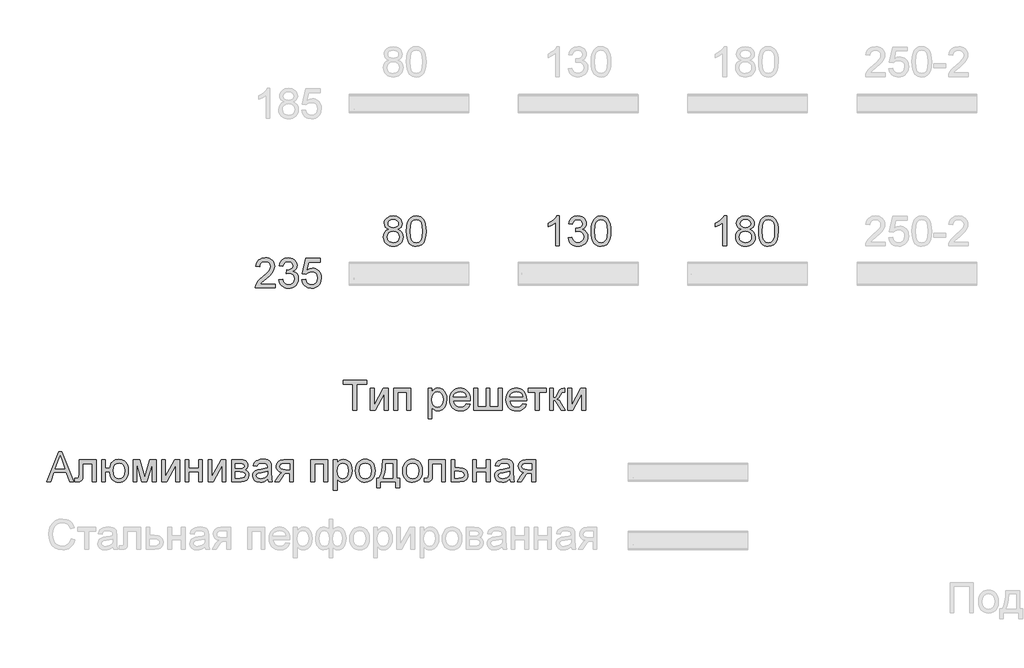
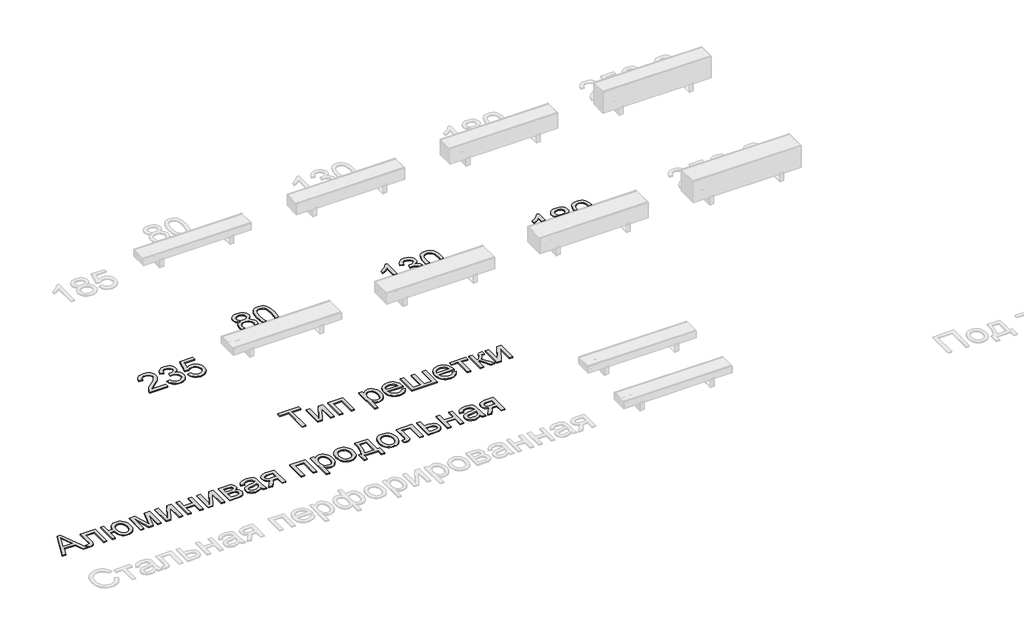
# One storey, part 3 of 7: 6 proxies.
"""IFC4 building model written with IfcOpenShell, lengths in millimetres."""

from ifc_helpers import new_model, si_unit, origin, origin_with_axes, place, context, project, spatial, polyline, outline, extrude, element, save

model = new_model("IFC4")

# Units and contexts
model_context = context("Model", 3, world=origin())
ifc_project = project(units=[si_unit("LENGTHUNIT", "METRE", prefix="MILLI")], contexts=[model_context])

# Site, building, storey
site = spatial("IfcSite", under=ifc_project)
building = spatial("IfcBuilding", under=site)
storey = spatial("IfcBuildingStorey", under=building, Name="Уровень 1", Elevation=0.0)

# Proxies
placement = place(None, origin())
element("IfcBuildingElementProxy", 1, Name="Текст модели 1", ObjectType="Текст модели 1", at=placement, inside=storey, context=model_context, shape_type="SweptSolid", body=[
    extrude(outline(polyline([(1521.1954966, -4334.7822779), (1501.0263662, -4324.849464), (1486.8721064, -4311.384983), (1478.5119881, -4294.6647463), (1475.725282, -4274.9646655), (1477.2427952, -4259.6009936), (1481.7953349, -4245.5157117), (1489.382901, -4232.7088198), (1500.0054937, -4221.1803178), (1513.1526765, -4211.6521741), (1528.3140132, -4204.8463572), (1564.6791484, -4199.4017036), (1601.2650128, -4204.9751159), (1616.5918964, -4211.9418812), (1629.9414143, -4221.6953525), (1640.757145, -4233.4491823), (1648.4826669, -4246.4170226), (1653.11798, -4260.5988735), (1654.6630844, -4275.994735), (1651.9131665, -4295.0602194), (1643.6634128, -4311.4953476), (1629.8218527, -4324.8770551), (1610.2965158, -4334.7822779), (1633.4822786, -4346.7292457), (1650.3588651, -4364.3232021), (1660.6503639, -4386.7180185), (1664.0808635, -4413.0675664), (1662.3794093, -4431.8571393), (1657.2750466, -4449.0832138), (1648.7677755, -4464.7457897), (1636.8575959, -4478.8448672), (1622.1699072, -4490.4975294), (1605.3301089, -4498.8208595), (1586.3382009, -4503.8148576), (1565.1941832, -4505.4795236), (1544.0501655, -4503.8079598), (1525.0582575, -4498.7932684), (1508.2184592, -4490.4354493), (1493.5307705, -4478.7345026), (1481.6205909, -4464.5365568), (1473.1133198, -4448.6877406), (1468.0089571, -4431.188054), (1466.3075029, -4412.0374969), (1469.8759582, -4384.6670764), (1480.5813243, -4362.1526983), (1497.8717781, -4345.2669147), (1521.1954966, -4334.7822779)]), holes=[polyline([(1503.9786192, -4410.7131217), (1510.2694013, -4439.0768235), (1518.9790076, -4451.2445205), (1532.526262, -4460.3036146), (1548.749858, -4465.9322091), (1565.4884888, -4467.8084073), (1591.1298639, -4463.8628729), (1610.3700922, -4452.0262697), (1622.3998334, -4434.1012195), (1626.4097472, -4411.8903441), (1622.2710747, -4389.3023896), (1609.8550574, -4370.9818662), (1590.1733707, -4358.8417604), (1564.23769, -4354.7950584), (1538.9549999, -4358.7865781), (1519.9079096, -4370.761137), (1507.9609418, -4388.7321725), (1503.9786192, -4410.7131217)]), polyline([(1513.3963983, -4276.0683114), (1516.7349274, -4292.5126366), (1526.7505147, -4305.6460238), (1543.1488546, -4314.2544625), (1565.6356416, -4317.1239421), (1587.5981967, -4314.2728566), (1603.7482163, -4305.7196002), (1613.6810302, -4293.0276714), (1616.9919681, -4277.7605686), (1613.5706656, -4261.9140517), (1603.3067579, -4248.8082556), (1586.9360091, -4240.0066789), (1565.1941832, -4237.0728199), (1543.3144015, -4239.9422995), (1526.9712439, -4248.5507382), (1516.7901097, -4261.1690906), (1513.3963983, -4276.0683114)])]), origin_with_axes(), (0.0, 0.0, 1.0), 10.0),
    extrude(outline(polyline([(1697.0430903, -4352.51419), (1699.8114023, -4304.2756634), (1708.1163383, -4265.8044038), (1721.8751249, -4236.5117999), (1741.0049887, -4215.8092406), (1765.6438853, -4203.5035879), (1795.9297706, -4199.4017036), (1819.1431245, -4201.8297248), (1839.9284572, -4209.1137883), (1857.3108815, -4220.9687856), (1870.31551, -4237.1096081), (1880.1379593, -4257.3983002), (1887.9738458, -4281.696906), (1893.1057996, -4312.5530083), (1894.8164509, -4352.51419), (1892.07573, -4400.4768052), (1883.8535674, -4438.8560943), (1870.1775542, -4468.1762893), (1851.0752817, -4488.961622), (1826.3812027, -4501.3500482), (1795.9297706, -4505.4795236), (1775.181226, -4503.6860989), (1756.7871263, -4498.3058247), (1740.7474713, -4489.3387011), (1727.0622611, -4476.784728), (1713.9288738, -4454.0910074), (1704.547883, -4425.8146776), (1698.9192884, -4391.9557384), (1697.0430903, -4352.51419)]), holes=[polyline([(1734.7142066, -4352.4406136), (1739.1287905, -4411.697206), (1744.6470204, -4431.9652047), (1752.3725423, -4445.993005), (1772.0910173, -4462.3545567), (1795.9297706, -4467.8084073), (1819.7685239, -4462.3361626), (1839.4869988, -4445.9194286), (1847.2125207, -4431.8686357), (1852.7307506, -4411.6052355), (1857.1453346, -4352.4406136), (1852.8779034, -4294.5175935), (1847.5436145, -4274.3162734), (1840.07561, -4259.95508), (1820.3939233, -4242.793385), (1795.4883122, -4237.0728199), (1771.9070763, -4242.1128033), (1752.9611535, -4257.2327533), (1744.9781142, -4272.8677381), (1739.2759433, -4293.9473764), (1734.7142066, -4352.4406136)])]), origin_with_axes(), (0.0, 0.0, 1.0), 10.0),
])
element("IfcBuildingElementProxy", 2, Name="Текст модели 1", ObjectType="Текст модели 1", at=placement, inside=storey, context=model_context, shape_type="SweptSolid", body=[
    extrude(outline(polyline([(378.7372601, -4883.6692358), (378.7372601, -4921.3403521), (180.9638994, -4921.3403521), (185.0106014, -4895.3678832), (194.2996218, -4875.0699942), (207.8928615, -4855.3791104), (227.5561541, -4834.7685216), (255.0553333, -4811.7115175), (295.7062937, -4775.6038997), (320.09687, -4748.9508492), (332.2921582, -4727.3193878), (336.3572542, -4706.2765377), (332.5220844, -4687.4133884), (321.016575, -4671.7324184), (303.3306481, -4661.1650081), (280.9542257, -4657.642538), (257.4557633, -4661.0822346), (239.1996193, -4671.4013246), (227.4181984, -4687.7904675), (223.3439053, -4709.4403229), (185.672789, -4704.7314333), (194.8054595, -4668.2927217), (203.3518181, -4653.7567844), (214.5515256, -4641.6764594), (228.1470646, -4632.1805054), (243.8809177, -4625.3976811), (281.7635661, -4619.9714217), (301.9533899, -4621.4797378), (319.9221261, -4626.0046864), (335.6697747, -4633.5462673), (349.1963358, -4644.1044805), (360.060351, -4656.8975769), (367.8203618, -4671.1438072), (372.4763683, -4686.8431713), (374.0283705, -4703.9956694), (372.3545074, -4722.0126901), (367.3329182, -4739.7170111), (358.4209769, -4757.7248348), (345.0760575, -4776.6523634), (323.8032811, -4799.249515), (291.1077688, -4828.2662073), (247.7712698, -4864.5025839), (230.7751216, -4883.6692358), (378.7372601, -4883.6692358)])), origin_with_axes(), (0.0, 0.0, 1.0), 10.0),
    extrude(outline(polyline([(416.4083764, -4841.28923), (454.0794927, -4836.5803404), (462.5131874, -4860.2535468), (474.8648254, -4876.2380195), (491.7414119, -4885.3430989), (513.7499523, -4888.3781253), (539.5752683, -4884.2026647), (559.5144725, -4871.6762828), (572.2615836, -4852.9878774), (576.5106207, -4830.3263465), (572.2983718, -4808.8144468), (559.6616253, -4791.3676432), (540.5317615, -4779.8069515), (516.840161, -4775.9533876), (490.4262338, -4780.073666), (494.6200885, -4742.4025497), (500.6533533, -4742.844008), (523.2229137, -4740.1400754), (543.4012411, -4732.0282774), (557.6382743, -4718.306279), (562.383952, -4698.771745), (558.9442554, -4682.5021638), (548.6251654, -4669.3043972), (532.879816, -4660.5580028), (513.1613411, -4657.642538), (493.4060779, -4660.5855939), (477.2560584, -4669.4147618), (465.4654404, -4684.1300416), (458.7883822, -4704.7314333), (421.1172659, -4700.0225438), (432.2089081, -4666.1957944), (451.9457771, -4640.9406954), (478.9483155, -4625.2137401), (511.8369659, -4619.9714217), (535.5193693, -4622.5557927), (557.2703923, -4630.3089057), (575.6093098, -4642.5409821), (589.0553967, -4658.562243), (597.3051504, -4677.0207221), (600.0550684, -4696.5644531), (597.4431062, -4714.7746118), (589.6072197, -4731.2925134), (576.6577735, -4745.3639997), (558.7051321, -4756.2349127), (582.286368, -4765.7630563), (599.7607628, -4781.9866523), (610.5764934, -4804.0227838), (614.181737, -4830.9885341), (612.3791152, -4850.1000037), (606.9712499, -4867.7031572), (597.958141, -4883.7979945), (585.3397885, -4898.3845156), (569.9669197, -4910.4878332), (552.6902615, -4919.1330601), (533.5098139, -4924.3201963), (512.4255771, -4926.0492416), (493.3692897, -4924.5731151), (476.0052596, -4920.1447356), (460.3334866, -4912.7641031), (446.3539708, -4902.4312176), (434.6323307, -4889.7530843), (425.7341849, -4875.3367086), (419.6595335, -4859.1820905), (416.4083764, -4841.28923)])), origin_with_axes(), (0.0, 0.0, 1.0), 10.0),
    extrude(outline(polyline([(647.1439637, -4841.28923), (684.81508, -4836.5803404), (691.7312615, -4859.1958861), (703.797791, -4875.3918909), (720.9594861, -4885.1315667), (743.1611645, -4888.3781253), (770.1637029, -4883.8623738), (790.3972127, -4870.3151194), (803.0339592, -4849.2998604), (807.246208, -4822.3800954), (803.3006736, -4797.0330259), (791.4640704, -4777.6456448), (771.644428, -4765.3399921), (743.7497757, -4761.2381078), (725.4752376, -4762.8751827), (710.6771843, -4767.7864073), (689.5239696, -4784.7825555), (651.8528533, -4780.073666), (684.81508, -4624.6803112), (830.7906557, -4624.6803112), (830.7906557, -4662.3514275), (715.2757092, -4662.3514275), (699.1624779, -4745.3456056), (726.0730458, -4729.011645), (754.2712007, -4723.5669915), (772.617016, -4725.2546502), (789.4683106, -4730.3176261), (804.8250847, -4738.7559194), (818.6873381, -4750.5695299), (830.1629571, -4765.0364894), (838.3598278, -4781.4348293), (843.2779502, -4799.7645497), (844.9173243, -4820.0256506), (839.0128183, -4857.6967669), (831.6321858, -4874.49058), (821.2993002, -4889.9232297), (805.6459214, -4905.7283599), (787.3805803, -4917.0177387), (766.5032771, -4923.7913659), (743.0140117, -4926.0492416), (706.01428, -4920.2459032), (690.3356092, -4912.9917301), (676.5377351, -4902.8358877), (665.0575176, -4890.2842139), (656.3318166, -4875.8425464), (647.1439637, -4841.28923)])), origin_with_axes(), (0.0, 0.0, 1.0), 10.0),
])
element("IfcBuildingElementProxy", 3, Name="Текст модели 1", ObjectType="Текст модели 1", at=placement, inside=storey, context=model_context, shape_type="SweptSolid", body=[
    extrude(outline(polyline([(3232.2063954, -4500.7706341), (3194.535279, -4500.7706341), (3194.535279, -4265.9147684), (3158.8507255, -4291.3354142), (3119.1930464, -4310.3549134), (3119.1930464, -4274.7439363), (3148.7799559, -4258.649099), (3174.4121339, -4239.5008411), (3194.6180525, -4219.1385727), (3207.9261837, -4199.4017036), (3232.2063954, -4199.4017036), (3232.2063954, -4500.7706341)])), origin_with_axes(), (0.0, 0.0, 1.0), 10.0),
    extrude(outline(polyline([(3321.6752966, -4420.7195119), (3359.3464129, -4416.0106224), (3367.7801076, -4439.6838288), (3380.1317456, -4455.6683015), (3397.0083321, -4464.7733809), (3419.0168725, -4467.8084073), (3444.8421886, -4463.6329467), (3464.7813927, -4451.1065647), (3477.5285038, -4432.4181594), (3481.7775409, -4409.7566285), (3477.565292, -4388.2447288), (3464.9285455, -4370.7979252), (3445.7986818, -4359.2372335), (3422.1070813, -4355.3836696), (3395.693154, -4359.5039479), (3399.8870088, -4321.8328316), (3405.9202735, -4322.27429), (3428.4898339, -4319.5703574), (3448.6681613, -4311.4585594), (3462.9051945, -4297.736561), (3467.6508723, -4278.202027), (3464.2111756, -4261.9324458), (3453.8920856, -4248.7346792), (3438.1467363, -4239.9882848), (3418.4282613, -4237.0728199), (3398.6729982, -4240.0158759), (3382.5229786, -4248.8450438), (3370.7323606, -4263.5603236), (3364.0553024, -4284.1617153), (3326.3841861, -4279.4528258), (3337.4758283, -4245.6260763), (3357.2126973, -4220.3709774), (3384.2152358, -4204.6440221), (3417.1038861, -4199.4017036), (3440.7862896, -4201.9860747), (3462.5373125, -4209.7391877), (3480.87623, -4221.971264), (3494.3223169, -4237.9925249), (3502.5720707, -4256.451004), (3505.3219886, -4275.994735), (3502.7100264, -4294.2048938), (3494.8741399, -4310.7227954), (3481.9246937, -4324.7942817), (3463.9720523, -4335.6651947), (3487.5532882, -4345.1933383), (3505.027683, -4361.4169343), (3515.8434136, -4383.4530658), (3519.4486572, -4410.4188161), (3517.6460354, -4429.5302857), (3512.2381701, -4447.1334392), (3503.2250612, -4463.2282765), (3490.6067088, -4477.8147976), (3475.2338399, -4489.9181152), (3457.9571817, -4498.5633421), (3438.7767342, -4503.7504783), (3417.6924973, -4505.4795236), (3398.63621, -4504.0033971), (3381.2721798, -4499.5750176), (3365.6004068, -4492.1943851), (3351.620891, -4481.8614995), (3339.8992509, -4469.1833663), (3331.0011052, -4454.7669906), (3324.9264537, -4438.6123725), (3321.6752966, -4420.7195119)])), origin_with_axes(), (0.0, 0.0, 1.0), 10.0),
    extrude(outline(polyline([(3552.410884, -4352.51419), (3555.179196, -4304.2756634), (3563.484132, -4265.8044038), (3577.2429186, -4236.5117999), (3596.3727824, -4215.8092406), (3621.011679, -4203.5035879), (3651.2975643, -4199.4017036), (3674.5109182, -4201.8297248), (3695.2962509, -4209.1137883), (3712.6786752, -4220.9687856), (3725.6833037, -4237.1096081), (3735.505753, -4257.3983002), (3743.3416395, -4281.696906), (3748.4735933, -4312.5530083), (3750.1842446, -4352.51419), (3747.4435237, -4400.4768052), (3739.2213611, -4438.8560943), (3725.5453479, -4468.1762893), (3706.4430753, -4488.961622), (3681.7489964, -4501.3500482), (3651.2975643, -4505.4795236), (3630.5490197, -4503.6860989), (3612.15492, -4498.3058247), (3596.115265, -4489.3387011), (3582.4300548, -4476.784728), (3569.2966675, -4454.0910074), (3559.9156767, -4425.8146776), (3554.2870821, -4391.9557384), (3552.410884, -4352.51419)]), holes=[polyline([(3590.0820003, -4352.4406136), (3594.4965842, -4411.697206), (3600.0148141, -4431.9652047), (3607.740336, -4445.993005), (3627.458811, -4462.3545567), (3651.2975643, -4467.8084073), (3675.1363175, -4462.3361626), (3694.8547925, -4445.9194286), (3702.5803144, -4431.8686357), (3708.0985443, -4411.6052355), (3712.5131283, -4352.4406136), (3708.2456971, -4294.5175935), (3702.9114082, -4274.3162734), (3695.4434037, -4259.95508), (3675.7617169, -4242.793385), (3650.8561059, -4237.0728199), (3627.27487, -4242.1128033), (3608.3289472, -4257.2327533), (3600.3459079, -4272.8677381), (3594.643737, -4293.9473764), (3590.0820003, -4352.4406136)])]), origin_with_axes(), (0.0, 0.0, 1.0), 10.0),
])
element("IfcBuildingElementProxy", 4, Name="Текст модели 1", ObjectType="Текст модели 1", at=placement, inside=storey, context=model_context, shape_type="SweptSolid", body=[
    extrude(outline(polyline([(4912.2063954, -4500.7706341), (4874.535279, -4500.7706341), (4874.535279, -4265.9147684), (4838.8507255, -4291.3354142), (4799.1930464, -4310.3549134), (4799.1930464, -4274.7439363), (4828.7799559, -4258.649099), (4854.4121339, -4239.5008411), (4874.6180525, -4219.1385727), (4887.9261837, -4199.4017036), (4912.2063954, -4199.4017036), (4912.2063954, -4500.7706341)])), origin_with_axes(), (0.0, 0.0, 1.0), 10.0),
    extrude(outline(polyline([(5056.5632903, -4334.7822779), (5036.3941599, -4324.849464), (5022.2399001, -4311.384983), (5013.8797818, -4294.6647463), (5011.0930757, -4274.9646655), (5012.6105889, -4259.6009936), (5017.1631286, -4245.5157117), (5024.7506947, -4232.7088198), (5035.3732873, -4221.1803178), (5048.5204701, -4211.6521741), (5063.6818069, -4204.8463572), (5100.0469421, -4199.4017036), (5136.6328065, -4204.9751159), (5151.9596901, -4211.9418812), (5165.309208, -4221.6953525), (5176.1249387, -4233.4491823), (5183.8504606, -4246.4170226), (5188.4857737, -4260.5988735), (5190.0308781, -4275.994735), (5187.2809602, -4295.0602194), (5179.0312065, -4311.4953476), (5165.1896464, -4324.8770551), (5145.6643095, -4334.7822779), (5168.8500722, -4346.7292457), (5185.7266588, -4364.3232021), (5196.0181576, -4386.7180185), (5199.4486572, -4413.0675664), (5197.747203, -4431.8571393), (5192.6428403, -4449.0832138), (5184.1355691, -4464.7457897), (5172.2253895, -4478.8448672), (5157.5377009, -4490.4975294), (5140.6979026, -4498.8208595), (5121.7059946, -4503.8148576), (5100.5619769, -4505.4795236), (5079.4179592, -4503.8079598), (5060.4260512, -4498.7932684), (5043.5862529, -4490.4354493), (5028.8985642, -4478.7345026), (5016.9883846, -4464.5365568), (5008.4811135, -4448.6877406), (5003.3767508, -4431.188054), (5001.6752966, -4412.0374969), (5005.2437519, -4384.6670764), (5015.949118, -4362.1526983), (5033.2395718, -4345.2669147), (5056.5632903, -4334.7822779)]), holes=[polyline([(5039.3464129, -4410.7131217), (5045.637195, -4439.0768235), (5054.3468012, -4451.2445205), (5067.8940557, -4460.3036146), (5084.1176517, -4465.9322091), (5100.8562825, -4467.8084073), (5126.4976575, -4463.8628729), (5145.7378859, -4452.0262697), (5157.7676271, -4434.1012195), (5161.7775409, -4411.8903441), (5157.6388684, -4389.3023896), (5145.2228511, -4370.9818662), (5125.5411644, -4358.8417604), (5099.6054837, -4354.7950584), (5074.3227936, -4358.7865781), (5055.2757033, -4370.761137), (5043.3287355, -4388.7321725), (5039.3464129, -4410.7131217)]), polyline([(5048.764192, -4276.0683114), (5052.1027211, -4292.5126366), (5062.1183084, -4305.6460238), (5078.5166483, -4314.2544625), (5101.0034353, -4317.1239421), (5122.9659904, -4314.2728566), (5139.11601, -4305.7196002), (5149.0488238, -4293.0276714), (5152.3597618, -4277.7605686), (5148.9384593, -4261.9140517), (5138.6745516, -4248.8082556), (5122.3038028, -4240.0066789), (5100.5619769, -4237.0728199), (5078.6821952, -4239.9422995), (5062.3390376, -4248.5507382), (5052.1579034, -4261.1690906), (5048.764192, -4276.0683114)])]), origin_with_axes(), (0.0, 0.0, 1.0), 10.0),
    extrude(outline(polyline([(5232.410884, -4352.51419), (5235.179196, -4304.2756634), (5243.484132, -4265.8044038), (5257.2429186, -4236.5117999), (5276.3727824, -4215.8092406), (5301.011679, -4203.5035879), (5331.2975643, -4199.4017036), (5354.5109182, -4201.8297248), (5375.2962509, -4209.1137883), (5392.6786752, -4220.9687856), (5405.6833037, -4237.1096081), (5415.505753, -4257.3983002), (5423.3416395, -4281.696906), (5428.4735933, -4312.5530083), (5430.1842446, -4352.51419), (5427.4435237, -4400.4768052), (5419.2213611, -4438.8560943), (5405.5453479, -4468.1762893), (5386.4430753, -4488.961622), (5361.7489964, -4501.3500482), (5331.2975643, -4505.4795236), (5310.5490197, -4503.6860989), (5292.15492, -4498.3058247), (5276.115265, -4489.3387011), (5262.4300548, -4476.784728), (5249.2966675, -4454.0910074), (5239.9156767, -4425.8146776), (5234.2870821, -4391.9557384), (5232.410884, -4352.51419)]), holes=[polyline([(5270.0820003, -4352.4406136), (5274.4965842, -4411.697206), (5280.0148141, -4431.9652047), (5287.740336, -4445.993005), (5307.458811, -4462.3545567), (5331.2975643, -4467.8084073), (5355.1363175, -4462.3361626), (5374.8547925, -4445.9194286), (5382.5803144, -4431.8686357), (5388.0985443, -4411.6052355), (5392.5131283, -4352.4406136), (5388.2456971, -4294.5175935), (5382.9114082, -4274.3162734), (5375.4434037, -4259.95508), (5355.7617169, -4242.793385), (5330.8561059, -4237.0728199), (5307.27487, -4242.1128033), (5288.3289472, -4257.2327533), (5280.3459079, -4272.8677381), (5274.643737, -4293.9473764), (5270.0820003, -4352.4406136)])]), origin_with_axes(), (0.0, 0.0, 1.0), 10.0),
])
element("IfcBuildingElementProxy", 5, Name="Текст модели 1", ObjectType="Текст модели 1", at=placement, inside=storey, context=model_context, shape_type="SweptSolid", body=[
    extrude(outline(polyline([(1161.2681737, -6152.7840237), (1161.2681737, -5889.0862096), (1062.3814934, -5889.0862096), (1062.3814934, -5851.4150933), (1297.8259703, -5851.4150933), (1297.8259703, -5889.0862096), (1198.93929, -5889.0862096), (1198.93929, -6152.7840237), (1161.2681737, -6152.7840237)])), origin_with_axes(), (0.0, 0.0, 1.0), 10.0),
    extrude(outline(polyline([(1335.4970866, -5931.4662154), (1373.1682029, -5931.4662154), (1373.1682029, -6100.2504748), (1465.7273129, -5931.4662154), (1514.4348891, -5931.4662154), (1514.4348891, -6152.7840237), (1476.7637728, -6152.7840237), (1476.7637728, -5985.0298339), (1384.793274, -6152.7840237), (1335.4970866, -6152.7840237), (1335.4970866, -5931.4662154)])), origin_with_axes(), (0.0, 0.0, 1.0), 10.0),
    extrude(outline(polyline([(1570.9415635, -5931.4662154), (1740.4615869, -5931.4662154), (1740.4615869, -6152.7840237), (1702.7904706, -6152.7840237), (1702.7904706, -5969.1373317), (1608.6126798, -5969.1373317), (1608.6126798, -6152.7840237), (1570.9415635, -6152.7840237), (1570.9415635, -5931.4662154)])), origin_with_axes(), (0.0, 0.0, 1.0), 10.0),
    extrude(outline(polyline([(1914.6904998, -6237.5440354), (1914.6904998, -5931.4662154), (1952.3616161, -5931.4662154), (1952.3616161, -5968.4015677), (1964.6488748, -5950.1822119), (1978.4076614, -5937.1683863), (1994.4473164, -5929.360091), (2013.5771801, -5926.7573259), (2039.0530083, -5930.3993576), (2061.3282631, -5941.3254529), (2079.4648455, -5958.873424), (2092.5246563, -5982.3810835), (2100.4157251, -6010.1377801), (2103.0460813, -6040.4328624), (2100.0754342, -6072.6501281), (2091.1634929, -6101.4644854), (2076.5953659, -6125.4136033), (2056.6561618, -6143.0351508), (2033.4336108, -6153.8784726), (2009.0154434, -6157.4929132), (1991.6973985, -6155.0740891), (1976.2371576, -6147.8176168), (1963.0026028, -6136.8639304), (1952.3616161, -6123.3534641), (1952.3616161, -6237.5440354), (1914.6904998, -6237.5440354)]), holes=[polyline([(1952.3616161, -6043.8909531), (1956.4359092, -6077.6625203), (1968.6587885, -6101.2805444), (1986.6942033, -6115.1864838), (2008.206103, -6119.8217969), (2030.0674905, -6115.0209369), (2048.5627579, -6100.6183568), (2061.1719132, -6076.13581), (2065.374965, -6041.09505), (2061.2730808, -6007.5074238), (2048.9674281, -5983.5583059), (2030.9596044, -5969.2109081), (2009.7512074, -5964.4284422), (1988.4600369, -5969.5144108), (1969.7624345, -5984.7723165), (1956.7118207, -6009.7239128), (1952.3616161, -6043.8909531)])]), origin_with_axes(), (0.0, 0.0, 1.0), 10.0),
    extrude(outline(polyline([(2300.3779836, -6086.8595702), (2337.3133359, -6091.5684597), (2324.0052047, -6119.3987326), (2302.7692165, -6140.2024595), (2274.0836179, -6153.1702998), (2238.4266556, -6157.4929132), (2215.0523533, -6155.6282114), (2194.2256338, -6150.0341058), (2175.9464972, -6140.7105965), (2160.2149434, -6127.6576834), (2147.5644013, -6111.2386501), (2138.5282998, -6091.8167801), (2133.1066389, -6069.3920732), (2131.2994186, -6043.9645295), (2133.125033, -6017.6747624), (2138.6018762, -5994.5027953), (2147.7299482, -5974.448628), (2160.509249, -5957.5122607), (2176.1994161, -5944.0569767), (2194.0600869, -5934.4460596), (2214.0912616, -5928.6795093), (2236.29294, -5926.7573259), (2257.7795478, -5928.6749108), (2277.2106149, -5934.4276655), (2294.5861414, -5944.01559), (2309.9061272, -5957.4386843), (2322.4118158, -5974.3382634), (2331.3444505, -5994.3556425), (2336.7040313, -6017.4908215), (2338.4905583, -6043.7438003), (2338.2698291, -6053.8973434), (2168.9705349, -6053.8973434), (2175.4912432, -6082.0954983), (2190.6387844, -6102.8256488), (2212.500172, -6115.5727599), (2239.1624196, -6119.8217969), (2259.2119883, -6117.8536283), (2276.0977719, -6111.9491222), (2289.8197703, -6101.7403969), (2300.3779836, -6086.8595702)]), holes=[polyline([(2168.9705349, -6016.2262271), (2300.8194419, -6016.2262271), (2295.7242763, -5996.3238112), (2285.7362801, -5982.0867779), (2263.773725, -5968.8430261), (2236.1457872, -5964.4284422), (2210.7527325, -5967.9509123), (2189.7558676, -5978.5183226), (2175.1601494, -5994.9902389), (2168.9705349, -6016.2262271)])]), origin_with_axes(), (0.0, 0.0, 1.0), 10.0),
    extrude(outline(polyline([(2376.1616746, -5931.4662154), (2413.8327909, -5931.4662154), (2413.8327909, -6115.1129074), (2498.5928026, -6115.1129074), (2498.5928026, -5931.4662154), (2536.2639189, -5931.4662154), (2536.2639189, -6115.1129074), (2621.0239306, -6115.1129074), (2621.0239306, -5931.4662154), (2658.6950469, -5931.4662154), (2658.6950469, -6152.7840237), (2376.1616746, -6152.7840237), (2376.1616746, -5931.4662154)])), origin_with_axes(), (0.0, 0.0, 1.0), 10.0),
    extrude(outline(polyline([(2865.4447281, -6086.8595702), (2902.3800805, -6091.5684597), (2889.0719493, -6119.3987326), (2867.8359611, -6140.2024595), (2839.1503625, -6153.1702998), (2803.4934002, -6157.4929132), (2780.1190979, -6155.6282114), (2759.2923784, -6150.0341058), (2741.0132418, -6140.7105965), (2725.281688, -6127.6576834), (2712.6311459, -6111.2386501), (2703.5950444, -6091.8167801), (2698.1733835, -6069.3920732), (2696.3661632, -6043.9645295), (2698.1917776, -6017.6747624), (2703.6686208, -5994.5027953), (2712.7966928, -5974.448628), (2725.5759936, -5957.5122607), (2741.2661607, -5944.0569767), (2759.1268315, -5934.4460596), (2779.1580062, -5928.6795093), (2801.3596846, -5926.7573259), (2822.8462924, -5928.6749108), (2842.2773595, -5934.4276655), (2859.652886, -5944.01559), (2874.9728718, -5957.4386843), (2887.4785604, -5974.3382634), (2896.4111951, -5994.3556425), (2901.7707759, -6017.4908215), (2903.5573028, -6043.7438003), (2903.3365736, -6053.8973434), (2734.0372795, -6053.8973434), (2740.5579878, -6082.0954983), (2755.705529, -6102.8256488), (2777.5669165, -6115.5727599), (2804.2291641, -6119.8217969), (2824.2787329, -6117.8536283), (2841.1645165, -6111.9491222), (2854.8865149, -6101.7403969), (2865.4447281, -6086.8595702)]), holes=[polyline([(2734.0372795, -6016.2262271), (2865.8861865, -6016.2262271), (2860.7910209, -5996.3238112), (2850.8030247, -5982.0867779), (2828.8404696, -5968.8430261), (2801.2125318, -5964.4284422), (2775.8194771, -5967.9509123), (2754.8226122, -5978.5183226), (2740.226894, -5994.9902389), (2734.0372795, -6016.2262271)])]), origin_with_axes(), (0.0, 0.0, 1.0), 10.0),
    extrude(outline(polyline([(2922.392861, -5931.4662154), (3101.3306635, -5931.4662154), (3101.3306635, -5969.1373317), (3030.6973204, -5969.1373317), (3030.6973204, -6152.7840237), (2993.0262041, -6152.7840237), (2993.0262041, -5969.1373317), (2922.392861, -5969.1373317), (2922.392861, -5931.4662154)])), origin_with_axes(), (0.0, 0.0, 1.0), 10.0),
    extrude(outline(polyline([(3134.2928902, -5931.4662154), (3171.9640065, -5931.4662154), (3171.9640065, -6025.6440062), (3187.2862916, -6023.951749), (3197.2007114, -6018.8749775), (3205.974697, -6005.6312256), (3217.8756795, -5979.4380276), (3235.0557687, -5945.408943), (3250.2125069, -5934.335695), (3277.7668683, -5931.4662154), (3284.9773554, -5931.4662154), (3284.9773554, -5969.3580609), (3274.8238124, -5969.1373317), (3256.4297126, -5973.1104573), (3243.4802664, -5997.9057037), (3228.28674, -6024.7243012), (3206.9863725, -6037.8576884), (3218.9241432, -6043.1597877), (3230.7515494, -6052.5177859), (3254.0752679, -6083.4014794), (3294.3951345, -6152.7840237), (3251.5736703, -6152.7840237), (3212.063144, -6084.8730074), (3192.1975163, -6056.1414236), (3182.9084959, -6050.9266963), (3171.9640065, -6049.1884539), (3171.9640065, -6152.7840237), (3134.2928902, -6152.7840237), (3134.2928902, -5931.4662154)])), origin_with_axes(), (0.0, 0.0, 1.0), 10.0),
    extrude(outline(polyline([(3317.9395822, -5931.4662154), (3355.6106985, -5931.4662154), (3355.6106985, -6100.2504748), (3448.1698085, -5931.4662154), (3496.8773847, -5931.4662154), (3496.8773847, -6152.7840237), (3459.2062684, -6152.7840237), (3459.2062684, -5985.0298339), (3367.2357696, -6152.7840237), (3317.9395822, -6152.7840237), (3317.9395822, -5931.4662154)])), origin_with_axes(), (0.0, 0.0, 1.0), 10.0),
])
element("IfcBuildingElementProxy", 6, Name="Текст модели 1", ObjectType="Текст модели 1", at=placement, inside=storey, context=model_context, shape_type="SweptSolid", body=[
    extrude(outline(polyline([(-1914.7129688, -6868.8180768), (-1794.4155564, -6567.4491463), (-1762.3362464, -6567.4491463), (-1642.038834, -6868.8180768), (-1681.8436658, -6868.8180768), (-1716.350997, -6774.640286), (-1840.4743822, -6774.640286), (-1874.9081369, -6868.8180768), (-1914.7129688, -6868.8180768)]), holes=[polyline([(-1826.6420191, -6736.9691697), (-1730.1097836, -6736.9691697), (-1757.2594749, -6662.8777359), (-1778.3759014, -6605.1202627), (-1797.1378831, -6656.4030128), (-1826.6420191, -6736.9691697)])]), origin_with_axes(), (0.0, 0.0, 1.0), 10.0),
    extrude(outline(polyline([(-1587.6658751, -6647.5002685), (-1418.1458517, -6647.5002685), (-1418.1458517, -6868.5973476), (-1455.816968, -6868.5973476), (-1455.816968, -6685.1713848), (-1549.9947588, -6685.1713848), (-1549.9947588, -6790.7535174), (-1552.5331445, -6839.4610936), (-1557.2880193, -6850.4883564), (-1566.4758722, -6860.0256971), (-1580.4185998, -6866.6199819), (-1599.4380989, -6868.8180768), (-1630.0458809, -6866.9050904), (-1630.0458809, -6831.1469605), (-1613.1968855, -6831.1469605), (-1596.1639492, -6828.8293039), (-1589.3581323, -6821.471664), (-1587.6658751, -6788.6198018), (-1587.6658751, -6647.5002685)])), origin_with_axes(), (0.0, 0.0, 1.0), 10.0),
    extrude(outline(polyline([(-1361.6391772, -6647.5002685), (-1323.9680609, -6647.5002685), (-1323.9680609, -6732.2602802), (-1281.5880551, -6732.2602802), (-1271.8115911, -6693.8533999), (-1263.2882251, -6678.5127207), (-1252.3414365, -6665.7472155), (-1239.2793264, -6655.704037), (-1224.409996, -6648.5303381), (-1189.2496743, -6642.791379), (-1159.699553, -6646.1666963), (-1137.1207956, -6656.2926482), (-1119.7015831, -6672.3415002), (-1105.6300968, -6693.4855179), (-1096.3318794, -6721.2973967), (-1093.2324736, -6757.3498323), (-1094.8350595, -6784.2052179), (-1099.6428173, -6807.6025128), (-1107.655747, -6827.5417169), (-1118.8738486, -6844.0228303), (-1132.8372696, -6856.9308898), (-1149.0861575, -6866.1509323), (-1167.6205123, -6871.6829578), (-1188.4403339, -6873.5269663), (-1207.8438099, -6871.797921), (-1225.2193364, -6866.6107848), (-1240.5669134, -6857.9655579), (-1253.8865409, -6845.8622403), (-1264.8471251, -6830.7422903), (-1273.1175722, -6813.0471663), (-1281.5880551, -6769.9313965), (-1323.9680609, -6769.9313965), (-1323.9680609, -6868.8180768), (-1361.6391772, -6868.8180768), (-1361.6391772, -6647.5002685)]), holes=[polyline([(-1186.8216531, -6680.4624953), (-1210.8351504, -6685.3369317), (-1228.8705652, -6699.960241), (-1240.1553454, -6723.37593), (-1243.9169388, -6754.6275055), (-1240.1277542, -6791.038626), (-1228.7602006, -6816.2477397), (-1211.0466825, -6830.9538224), (-1188.2196047, -6835.85585), (-1165.3281476, -6831.3217044), (-1146.9800331, -6817.7192677), (-1134.9227007, -6794.0184701), (-1130.9035899, -6759.1892422), (-1134.3800747, -6724.7462904), (-1144.8095293, -6700.144182), (-1162.26553, -6685.382917), (-1186.8216531, -6680.4624953)])]), origin_with_axes(), (0.0, 0.0, 1.0), 10.0),
    extrude(outline(polyline([(-1046.1435782, -6647.5002685), (-981.3227706, -6647.5002685), (-931.3643957, -6824.6722374), (-877.5064716, -6647.5002685), (-815.4079908, -6647.5002685), (-815.4079908, -6868.8180768), (-853.0791071, -6868.8180768), (-853.0791071, -6690.6160383), (-907.2313368, -6868.8180768), (-956.674677, -6868.8180768), (-1008.4724619, -6682.081176), (-1008.4724619, -6868.8180768), (-1046.1435782, -6868.8180768), (-1046.1435782, -6647.5002685)])), origin_with_axes(), (0.0, 0.0, 1.0), 10.0),
    extrude(outline(polyline([(-758.9013163, -6647.5002685), (-721.2302, -6647.5002685), (-721.2302, -6816.2845279), (-628.6710901, -6647.5002685), (-579.9635139, -6647.5002685), (-579.9635139, -6868.8180768), (-617.6346302, -6868.8180768), (-617.6346302, -6701.063887), (-709.605129, -6868.8180768), (-758.9013163, -6868.8180768), (-758.9013163, -6647.5002685)])), origin_with_axes(), (0.0, 0.0, 1.0), 10.0),
    extrude(outline(polyline([(-523.4568394, -6647.5002685), (-485.7857231, -6647.5002685), (-485.7857231, -6732.2602802), (-386.8990428, -6732.2602802), (-386.8990428, -6647.5002685), (-349.2279265, -6647.5002685), (-349.2279265, -6868.8180768), (-386.8990428, -6868.8180768), (-386.8990428, -6769.9313965), (-485.7857231, -6769.9313965), (-485.7857231, -6868.8180768), (-523.4568394, -6868.8180768), (-523.4568394, -6647.5002685)])), origin_with_axes(), (0.0, 0.0, 1.0), 10.0),
    extrude(outline(polyline([(-292.7212521, -6647.5002685), (-255.0501358, -6647.5002685), (-255.0501358, -6816.2845279), (-162.4910258, -6647.5002685), (-113.7834496, -6647.5002685), (-113.7834496, -6868.8180768), (-151.4545659, -6868.8180768), (-151.4545659, -6701.063887), (-243.4250647, -6868.8180768), (-292.7212521, -6868.8180768), (-292.7212521, -6647.5002685)])), origin_with_axes(), (0.0, 0.0, 1.0), 10.0),
    extrude(outline(polyline([(-57.2767751, -6647.5002685), (25.717403, -6647.5002685), (52.3980447, -6648.7602643), (71.2244058, -6652.5402518), (85.0751629, -6659.6771625), (96.8289926, -6671.007928), (104.8580172, -6685.769193), (107.5343587, -6703.1976026), (105.9156779, -6717.2414977), (101.0596356, -6729.3540124), (92.9478376, -6739.5903289), (81.5618898, -6748.0056296), (95.5046175, -6755.832319), (106.8721711, -6768.4230803), (114.4321461, -6784.784632), (116.9521378, -6803.9236928), (110.5693852, -6832.6368826), (95.3942529, -6852.8519982), (71.3715586, -6864.8265571), (38.44612, -6868.8180768), (-57.2767751, -6868.8180768), (-57.2767751, -6647.5002685)]), holes=[polyline([(-19.6056588, -6732.2602802), (17.6239991, -6732.2602802), (48.3421457, -6730.3472938), (63.2781547, -6722.6953483), (68.2169705, -6716.367778), (69.8632424, -6708.8629853), (66.9753687, -6697.6241903), (58.3117477, -6690.3953091), (42.6583688, -6686.4773659), (18.8012215, -6685.1713848), (-19.6056588, -6685.1713848), (-19.6056588, -6732.2602802)]), polyline([(-19.6056588, -6831.1469605), (26.6003198, -6831.1469605), (51.7818423, -6829.4455063), (67.582374, -6824.3411436), (76.062054, -6815.0613203), (79.2810215, -6800.8334841), (77.6715377, -6791.406508), (72.8430865, -6782.6969017), (65.4302643, -6775.8818878), (56.0676676, -6772.1386885), (22.9214998, -6769.9313965), (-19.6056588, -6769.9313965), (-19.6056588, -6831.1469605)])]), origin_with_axes(), (0.0, 0.0, 1.0), 10.0),
    extrude(outline(polyline([(305.3077193, -6840.5647396), (287.3090927, -6855.9973893), (268.7770372, -6866.09575), (249.2884885, -6871.6691623), (228.4203823, -6873.5269663), (196.9388806, -6869.0572001), (173.7163296, -6855.6479014), (159.396523, -6835.2856329), (154.6232541, -6809.9569576), (156.4258759, -6794.3403669), (161.8337412, -6780.158516), (170.1754654, -6768.0184101), (180.7796639, -6758.5270546), (207.156803, -6746.1662196), (239.7511478, -6740.5008369), (278.2683927, -6734.5411486), (305.0869901, -6727.5513906), (305.3077193, -6719.1636812), (302.7141512, -6702.351474), (294.933447, -6691.3518023), (277.5326287, -6683.184822), (253.2892052, -6680.4624953), (230.8484035, -6682.2743141), (215.1766305, -6687.7097706), (204.4896585, -6697.7621461), (197.0032599, -6713.424722), (159.3321436, -6708.7158325), (165.8712461, -6688.1144408), (175.629316, -6671.927633), (189.5168613, -6659.5484038), (208.44439, -6650.3697481), (231.5933645, -6644.6859712), (258.1452475, -6642.791379), (283.6118786, -6644.465242), (303.7994031, -6649.4868313), (319.0205207, -6657.0376092), (329.587931, -6666.2990385), (336.596083, -6677.7493656), (341.1394256, -6691.8668371), (342.9788356, -6724.8290639), (342.9788356, -6771.6972301), (344.891822, -6837.143437), (352.3966147, -6868.8180768), (314.7254984, -6868.8180768), (305.3077193, -6840.5647396)]), holes=[polyline([(305.3077193, -6765.222507), (244.5336137, -6776.7740016), (212.1232099, -6782.8808427), (197.4447183, -6792.8136566), (192.2943704, -6807.3082072), (195.0994706, -6818.510214), (203.5147712, -6827.6888697), (217.3563313, -6833.814105), (236.4402098, -6835.85585), (256.6737195, -6833.6025728), (274.5527845, -6826.8427411), (289.0473351, -6816.8823361), (299.1273018, -6805.0273388), (303.597068, -6792.8136566), (305.0869901, -6775.8910848), (305.3077193, -6765.222507)])]), origin_with_axes(), (0.0, 0.0, 1.0), 10.0),
    extrude(outline(polyline([(564.2966439, -6647.5002685), (564.2966439, -6868.8180768), (526.6255276, -6868.8180768), (526.6255276, -6784.0580651), (506.0977123, -6784.0580651), (478.1386806, -6788.840531), (466.9734621, -6799.2699856), (451.8719062, -6820.9934174), (421.8527354, -6868.8180768), (378.2955071, -6868.8180768), (416.1137762, -6808.3382768), (432.8156188, -6786.6332391), (448.1930862, -6776.9947308), (422.4413466, -6769.103662), (404.3415524, -6754.1124707), (393.6361863, -6734.1732666), (390.067731, -6711.4381593), (394.9421674, -6685.6496314), (409.5654767, -6665.2321807), (433.4226241, -6651.9332465), (465.9985748, -6647.5002685), (564.2966439, -6647.5002685)]), holes=[polyline([(526.6255276, -6685.1713848), (476.9614582, -6685.1713848), (451.3108861, -6687.3510856), (436.7519562, -6693.8901881), (429.9921245, -6703.3539524), (427.7388473, -6714.3076388), (431.0589823, -6728.6642337), (441.0193873, -6738.6246387), (459.4226841, -6744.4463713), (488.0714945, -6746.3869488), (526.6255276, -6746.3869488), (526.6255276, -6685.1713848)])]), origin_with_axes(), (0.0, 0.0, 1.0), 10.0),
    extrude(outline(polyline([(738.5255568, -6647.5002685), (908.0455802, -6647.5002685), (908.0455802, -6868.8180768), (870.3744639, -6868.8180768), (870.3744639, -6685.1713848), (776.1966731, -6685.1713848), (776.1966731, -6868.8180768), (738.5255568, -6868.8180768), (738.5255568, -6647.5002685)])), origin_with_axes(), (0.0, 0.0, 1.0), 10.0),
    extrude(outline(polyline([(964.5522547, -6953.5780885), (964.5522547, -6647.5002685), (1002.223371, -6647.5002685), (1002.223371, -6684.4356208), (1014.5106296, -6666.216265), (1028.2694162, -6653.2024394), (1044.3090712, -6645.3941441), (1063.438935, -6642.791379), (1088.9147631, -6646.4334107), (1111.1900179, -6657.359506), (1129.3266003, -6674.9074771), (1142.3864111, -6698.4151366), (1150.2774799, -6726.1718332), (1152.9078362, -6756.4669155), (1149.9371891, -6788.6841812), (1141.0252477, -6817.4985385), (1126.4571207, -6841.4476564), (1106.5179166, -6859.0692039), (1083.2953657, -6869.9125257), (1058.8771982, -6873.5269663), (1041.5591533, -6871.1081422), (1026.0989125, -6863.8516699), (1012.8643577, -6852.8979835), (1002.223371, -6839.3875172), (1002.223371, -6953.5780885), (964.5522547, -6953.5780885)]), holes=[polyline([(1002.223371, -6759.9250062), (1006.2976641, -6793.6965734), (1018.5205433, -6817.3145975), (1036.5559582, -6831.2205369), (1058.0678578, -6835.85585), (1079.9292454, -6831.05499), (1098.4245127, -6816.6524099), (1111.0336681, -6792.1698631), (1115.2367199, -6757.1291031), (1111.1348356, -6723.5414769), (1098.8291829, -6699.592359), (1080.8213592, -6685.2449612), (1059.6129622, -6680.4624953), (1038.3217917, -6685.5484638), (1019.6241893, -6700.8063696), (1006.5735756, -6725.7579659), (1002.223371, -6759.9250062)])]), origin_with_axes(), (0.0, 0.0, 1.0), 10.0),
    extrude(outline(polyline([(1185.870063, -6758.1591726), (1187.9072095, -6729.4965667), (1194.0186491, -6704.7978892), (1204.2043819, -6684.0631403), (1218.4644077, -6667.2923198), (1232.8210026, -6656.5731582), (1248.6675195, -6648.9166142), (1266.0039586, -6644.3226878), (1284.8303197, -6642.791379), (1305.6133531, -6644.6560808), (1324.4052253, -6650.2501864), (1341.2059362, -6659.5736957), (1356.0154857, -6672.6266088), (1368.1027085, -6688.9674671), (1376.7364391, -6708.1548125), (1381.9166774, -6730.1886447), (1383.6434236, -6755.0689639), (1380.590003, -6793.1263563), (1371.4297413, -6822.0970634), (1356.429353, -6843.7929041), (1335.8555524, -6860.0256971), (1311.4189909, -6870.151649), (1284.8303197, -6873.5269663), (1263.7437835, -6871.6691623), (1244.7771674, -6866.09575), (1227.9304713, -6856.8067297), (1213.2036952, -6843.8021011), (1201.2452311, -6827.3025936), (1192.703471, -6807.5289364), (1187.578415, -6784.4811294), (1185.870063, -6758.1591726)]), holes=[polyline([(1223.5411793, -6758.0855962), (1227.9005809, -6792.1790602), (1240.9787858, -6816.4684689), (1260.6604726, -6831.0090047), (1284.8303197, -6835.85585), (1308.8898021, -6830.9814136), (1328.5347007, -6816.3581043), (1341.6129056, -6791.7467988), (1345.9723073, -6756.9083739), (1341.5853145, -6723.8081913), (1328.4243361, -6699.8498764), (1308.7518464, -6685.3093406), (1284.8303197, -6680.4624953), (1260.6604726, -6685.2909465), (1240.9787858, -6699.7763), (1227.9005809, -6724.0105264), (1223.5411793, -6758.0855962)])]), origin_with_axes(), (0.0, 0.0, 1.0), 10.0),
    extrude(outline(polyline([(1458.9856562, -6647.5002685), (1600.2523423, -6647.5002685), (1600.2523423, -6831.1469605), (1628.5056796, -6831.1469605), (1628.5056796, -6930.0336408), (1590.8345632, -6930.0336408), (1590.8345632, -6868.8180768), (1435.4412085, -6868.8180768), (1435.4412085, -6930.0336408), (1397.7700922, -6930.0336408), (1397.7700922, -6831.1469605), (1421.3145399, -6831.1469605), (1438.4302497, -6800.2172817), (1450.4140057, -6759.2996068), (1457.2658078, -6708.3939357), (1458.9856562, -6647.5002685)]), holes=[polyline([(1491.9478829, -6685.1713848), (1488.8576742, -6731.2945899), (1483.1187151, -6770.9982543), (1474.7310056, -6804.2823778), (1463.6945457, -6831.1469605), (1562.581226, -6831.1469605), (1562.581226, -6685.1713848), (1491.9478829, -6685.1713848)])]), origin_with_axes(), (0.0, 0.0, 1.0), 10.0),
    extrude(outline(polyline([(1661.4679063, -6758.1591726), (1663.5050529, -6729.4965667), (1669.6164925, -6704.7978892), (1679.8022253, -6684.0631403), (1694.0622511, -6667.2923198), (1708.418846, -6656.5731582), (1724.2653629, -6648.9166142), (1741.6018019, -6644.3226878), (1760.428163, -6642.791379), (1781.2111965, -6644.6560808), (1800.0030687, -6650.2501864), (1816.8037795, -6659.5736957), (1831.6133291, -6672.6266088), (1843.7005519, -6688.9674671), (1852.3342825, -6708.1548125), (1857.5145208, -6730.1886447), (1859.2412669, -6755.0689639), (1856.1878464, -6793.1263563), (1847.0275847, -6822.0970634), (1832.0271963, -6843.7929041), (1811.4533958, -6860.0256971), (1787.0168342, -6870.151649), (1760.428163, -6873.5269663), (1739.3416269, -6871.6691623), (1720.3750108, -6866.09575), (1703.5283147, -6856.8067297), (1688.8015386, -6843.8021011), (1676.8430745, -6827.3025936), (1668.3013144, -6807.5289364), (1663.1762583, -6784.4811294), (1661.4679063, -6758.1591726)]), holes=[polyline([(1699.1390226, -6758.0855962), (1703.4984243, -6792.1790602), (1716.5766292, -6816.4684689), (1736.2583159, -6831.0090047), (1760.428163, -6835.85585), (1784.4876455, -6830.9814136), (1804.132544, -6816.3581043), (1817.210749, -6791.7467988), (1821.5701506, -6756.9083739), (1817.1831578, -6723.8081913), (1804.0221795, -6699.8498764), (1784.3496898, -6685.3093406), (1760.428163, -6680.4624953), (1736.2583159, -6685.2909465), (1716.5766292, -6699.7763), (1703.4984243, -6724.0105264), (1699.1390226, -6758.0855962)])]), origin_with_axes(), (0.0, 0.0, 1.0), 10.0),
    extrude(outline(polyline([(1920.4568309, -6647.5002685), (2089.9768543, -6647.5002685), (2089.9768543, -6868.5973476), (2052.305738, -6868.5973476), (2052.305738, -6685.1713848), (1958.1279472, -6685.1713848), (1958.1279472, -6790.7535174), (1955.5895615, -6839.4610936), (1950.8346867, -6850.4883564), (1941.6468338, -6860.0256971), (1927.7041062, -6866.6199819), (1908.6846071, -6868.8180768), (1878.0768251, -6866.9050904), (1878.0768251, -6831.1469605), (1894.9258205, -6831.1469605), (1911.9587568, -6828.8293039), (1918.7645737, -6821.471664), (1920.4568309, -6788.6198018), (1920.4568309, -6647.5002685)])), origin_with_axes(), (0.0, 0.0, 1.0), 10.0),
    extrude(outline(polyline([(2146.4835288, -6647.5002685), (2184.1546451, -6647.5002685), (2184.1546451, -6727.5513906), (2227.5647205, -6727.5513906), (2265.1990486, -6732.2694772), (2280.3465898, -6738.1670855), (2293.0477156, -6746.423737), (2303.0908941, -6756.7543233), (2310.264593, -6768.8737358), (2316.0035521, -6798.4790393), (2311.1199187, -6825.4355925), (2296.4690182, -6848.1798969), (2285.237121, -6857.2091006), (2271.0759635, -6863.6585318), (2233.9658672, -6868.8180768), (2146.4835288, -6868.8180768), (2146.4835288, -6647.5002685)]), holes=[polyline([(2184.1546451, -6831.1469605), (2219.3241638, -6831.1469605), (2246.6118108, -6829.1695948), (2264.7575902, -6823.2374976), (2274.9387244, -6813.1115457), (2278.3324358, -6798.5526157), (2275.8216412, -6786.246963), (2268.2892574, -6775.37605), (2252.1484348, -6767.7608927), (2223.8123241, -6765.222507), (2184.1546451, -6765.222507), (2184.1546451, -6831.1469605)])]), origin_with_axes(), (0.0, 0.0, 1.0), 10.0),
    extrude(outline(polyline([(2363.0924475, -6647.5002685), (2400.7635638, -6647.5002685), (2400.7635638, -6732.2602802), (2499.6502441, -6732.2602802), (2499.6502441, -6647.5002685), (2537.3213604, -6647.5002685), (2537.3213604, -6868.8180768), (2499.6502441, -6868.8180768), (2499.6502441, -6769.9313965), (2400.7635638, -6769.9313965), (2400.7635638, -6868.8180768), (2363.0924475, -6868.8180768), (2363.0924475, -6647.5002685)])), origin_with_axes(), (0.0, 0.0, 1.0), 10.0),
    extrude(outline(polyline([(2735.094721, -6840.5647396), (2717.0960944, -6855.9973893), (2698.5640389, -6866.09575), (2679.0754902, -6871.6691623), (2658.2073841, -6873.5269663), (2626.7258823, -6869.0572001), (2603.5033314, -6855.6479014), (2589.1835247, -6835.2856329), (2584.4102558, -6809.9569576), (2586.2128776, -6794.3403669), (2591.6207429, -6780.158516), (2599.9624672, -6768.0184101), (2610.5666657, -6758.5270546), (2636.9438047, -6746.1662196), (2669.5381495, -6740.5008369), (2708.0553944, -6734.5411486), (2734.8739918, -6727.5513906), (2735.094721, -6719.1636812), (2732.501153, -6702.351474), (2724.7204488, -6691.3518023), (2707.3196304, -6683.184822), (2683.0762069, -6680.4624953), (2660.6354052, -6682.2743141), (2644.9636322, -6687.7097706), (2634.2766603, -6697.7621461), (2626.7902617, -6713.424722), (2589.1191454, -6708.7158325), (2595.6582478, -6688.1144408), (2605.4163177, -6671.927633), (2619.3038631, -6659.5484038), (2638.2313917, -6650.3697481), (2661.3803663, -6644.6859712), (2687.9322493, -6642.791379), (2713.3988804, -6644.465242), (2733.5864049, -6649.4868313), (2748.8075224, -6657.0376092), (2759.3749327, -6666.2990385), (2766.3830847, -6677.7493656), (2770.9264274, -6691.8668371), (2772.7658374, -6724.8290639), (2772.7658374, -6771.6972301), (2774.6788237, -6837.143437), (2782.1836164, -6868.8180768), (2744.5125001, -6868.8180768), (2735.094721, -6840.5647396)]), holes=[polyline([(2735.094721, -6765.222507), (2674.3206154, -6776.7740016), (2641.9102117, -6782.8808427), (2627.2317201, -6792.8136566), (2622.0813721, -6807.3082072), (2624.8864723, -6818.510214), (2633.301773, -6827.6888697), (2647.143333, -6833.814105), (2666.2272115, -6835.85585), (2686.4607213, -6833.6025728), (2704.3397862, -6826.8427411), (2718.8343369, -6816.8823361), (2728.9143035, -6805.0273388), (2733.3840698, -6792.8136566), (2734.8739918, -6775.8910848), (2735.094721, -6765.222507)])]), origin_with_axes(), (0.0, 0.0, 1.0), 10.0),
    extrude(outline(polyline([(2994.0836456, -6647.5002685), (2994.0836456, -6868.8180768), (2956.4125293, -6868.8180768), (2956.4125293, -6784.0580651), (2935.884714, -6784.0580651), (2907.9256824, -6788.840531), (2896.7604638, -6799.2699856), (2881.6589079, -6820.9934174), (2851.6397371, -6868.8180768), (2808.0825089, -6868.8180768), (2845.900778, -6808.3382768), (2862.6026206, -6786.6332391), (2877.980088, -6776.9947308), (2852.2283483, -6769.103662), (2834.1285541, -6754.1124707), (2823.4231881, -6734.1732666), (2819.8547327, -6711.4381593), (2824.7291692, -6685.6496314), (2839.3524785, -6665.2321807), (2863.2096259, -6651.9332465), (2895.7855765, -6647.5002685), (2994.0836456, -6647.5002685)]), holes=[polyline([(2956.4125293, -6685.1713848), (2906.74846, -6685.1713848), (2881.0978879, -6687.3510856), (2866.5389579, -6693.8901881), (2859.7791263, -6703.3539524), (2857.525849, -6714.3076388), (2860.845984, -6728.6642337), (2870.8063891, -6738.6246387), (2889.2096859, -6744.4463713), (2917.8584962, -6746.3869488), (2956.4125293, -6746.3869488), (2956.4125293, -6685.1713848)])]), origin_with_axes(), (0.0, 0.0, 1.0), 10.0),
])

save(model, "model.ifc")
